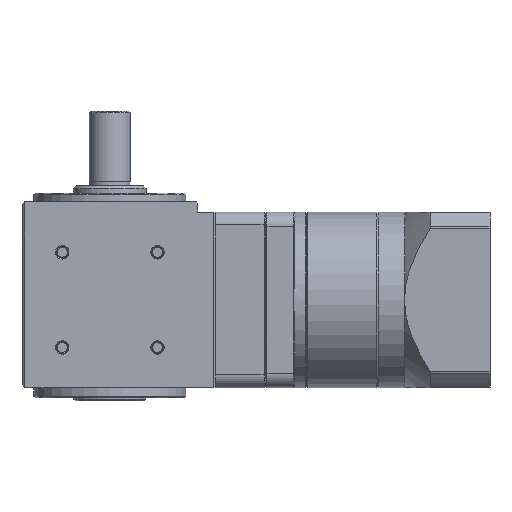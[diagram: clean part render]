
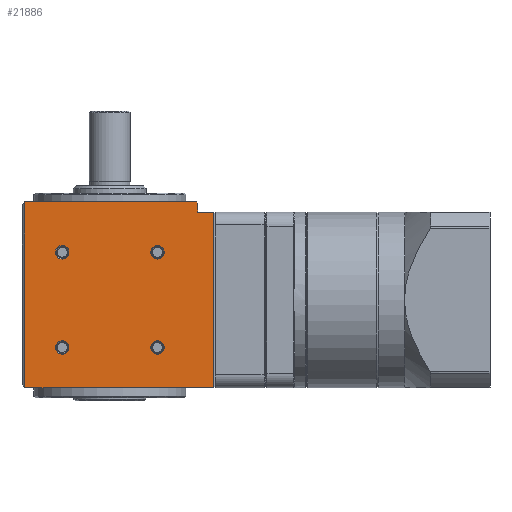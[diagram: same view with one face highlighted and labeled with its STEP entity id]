
A CAD part, left-side view. The second image highlights one B-rep face of the part: STEP entity #21886.
In plain terms, the highlighted planar face has unit normal (-1, 0, 0).
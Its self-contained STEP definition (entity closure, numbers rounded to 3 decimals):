
#290 = CARTESIAN_POINT ( 'NONE',  ( -30., 29., 63.5 ) ) ;
#306 = ORIENTED_EDGE ( 'NONE', *, *, #9460, .T. ) ;
#387 = CIRCLE ( 'NONE', #23864, 2.3 ) ;
#457 = FACE_BOUND ( 'NONE', #24627, .T. ) ;
#1071 = VECTOR ( 'NONE', #36574, 1000. ) ;
#1254 = DIRECTION ( 'NONE',  ( 1., 0., 0. ) ) ;
#1323 = DIRECTION ( 'NONE',  ( 0., 1., 0. ) ) ;
#1491 = EDGE_CURVE ( 'NONE', #14642, #35801, #40958, .T. ) ;
#1579 = LINE ( 'NONE', #41018, #1071 ) ;
#2135 = DIRECTION ( 'NONE',  ( 0., 0., -1. ) ) ;
#2151 = EDGE_CURVE ( 'NONE', #42689, #25827, #31126, .T. ) ;
#2208 = VERTEX_POINT ( 'NONE', #9987 ) ;
#2420 = CIRCLE ( 'NONE', #2509, 2.3 ) ;
#2509 = AXIS2_PLACEMENT_3D ( 'NONE', #8456, #3854, #43242 ) ;
#2681 = DIRECTION ( 'NONE',  ( 1., 0., 0. ) ) ;
#2849 = EDGE_CURVE ( 'NONE', #18149, #18149, #387, .T. ) ;
#3330 = PLANE ( 'NONE',  #6250 ) ;
#3854 = DIRECTION ( 'NONE',  ( 1., 0., 0. ) ) ;
#3862 = CARTESIAN_POINT ( 'NONE',  ( -30., -13.963, 46.263 ) ) ;
#4595 = ORIENTED_EDGE ( 'NONE', *, *, #2151, .F. ) ;
#4750 = CARTESIAN_POINT ( 'NONE',  ( -30., -30., 63. ) ) ;
#4869 = LINE ( 'NONE', #290, #16099 ) ;
#5681 = VECTOR ( 'NONE', #22219, 1000. ) ;
#5910 = DIRECTION ( 'NONE',  ( 1., 0., 0. ) ) ;
#6250 = AXIS2_PLACEMENT_3D ( 'NONE', #24912, #20474, #15996 ) ;
#6731 = CARTESIAN_POINT ( 'NONE',  ( -30., -30., 63.5 ) ) ;
#7264 = CARTESIAN_POINT ( 'NONE',  ( -30., 16.263, 13.737 ) ) ;
#8456 = CARTESIAN_POINT ( 'NONE',  ( -30., -16.263, 13.737 ) ) ;
#8462 = VERTEX_POINT ( 'NONE', #3862 ) ;
#8539 = FACE_BOUND ( 'NONE', #25757, .T. ) ;
#8834 = CIRCLE ( 'NONE', #41805, 2.3 ) ;
#9460 = EDGE_CURVE ( 'NONE', #8462, #8462, #8834, .T. ) ;
#9689 = FACE_BOUND ( 'NONE', #14073, .T. ) ;
#9746 = DIRECTION ( 'NONE',  ( 0., 0.707, 0.707 ) ) ;
#9987 = CARTESIAN_POINT ( 'NONE',  ( -30., -35.5, 0. ) ) ;
#10413 = CARTESIAN_POINT ( 'NONE',  ( -30., 16.263, 46.263 ) ) ;
#10472 = CARTESIAN_POINT ( 'NONE',  ( -30., -16.263, 46.263 ) ) ;
#11168 = EDGE_CURVE ( 'NONE', #42689, #35188, #4869, .T. ) ;
#11297 = LINE ( 'NONE', #6731, #36511 ) ;
#11995 = FACE_BOUND ( 'NONE', #13692, .T. ) ;
#12553 = ORIENTED_EDGE ( 'NONE', *, *, #34849, .T. ) ;
#12973 = DIRECTION ( 'NONE',  ( 0., 0., 1. ) ) ;
#13155 = FACE_OUTER_BOUND ( 'NONE', #13330, .T. ) ;
#13212 = EDGE_CURVE ( 'NONE', #39068, #39068, #43283, .T. ) ;
#13330 = EDGE_LOOP ( 'NONE', ( #39523, #17114, #4595, #34356, #25414, #12553, #40820 ) ) ;
#13612 = CARTESIAN_POINT ( 'NONE',  ( -30., 18.563, 46.263 ) ) ;
#13692 = EDGE_LOOP ( 'NONE', ( #33509 ) ) ;
#14073 = EDGE_LOOP ( 'NONE', ( #27572 ) ) ;
#14327 = CARTESIAN_POINT ( 'NONE',  ( -30., -29.5, 63.5 ) ) ;
#14642 = VERTEX_POINT ( 'NONE', #38873 ) ;
#15355 = CARTESIAN_POINT ( 'NONE',  ( -30., -30., 60. ) ) ;
#15407 = VECTOR ( 'NONE', #12973, 1000. ) ;
#15879 = CARTESIAN_POINT ( 'NONE',  ( -30., 29., 0. ) ) ;
#15996 = DIRECTION ( 'NONE',  ( 0., 1., 0. ) ) ;
#16099 = VECTOR ( 'NONE', #39781, 1000. ) ;
#16700 = CARTESIAN_POINT ( 'NONE',  ( -30., 29., 63.5 ) ) ;
#17114 = ORIENTED_EDGE ( 'NONE', *, *, #25513, .T. ) ;
#17530 = CARTESIAN_POINT ( 'NONE',  ( -30., -35.5, 63.5 ) ) ;
#18149 = VERTEX_POINT ( 'NONE', #13612 ) ;
#18852 = LINE ( 'NONE', #14327, #42404 ) ;
#19193 = EDGE_CURVE ( 'NONE', #35188, #2208, #1579, .T. ) ;
#20474 = DIRECTION ( 'NONE',  ( 1., 0., 0. ) ) ;
#21449 = VERTEX_POINT ( 'NONE', #4750 ) ;
#21886 = ADVANCED_FACE ( 'NONE', ( #457, #8539, #9689, #11995, #13155 ), #3330, .F. ) ;
#21979 = LINE ( 'NONE', #17530, #15407 ) ;
#22219 = DIRECTION ( 'NONE',  ( 0., -1., 0. ) ) ;
#23864 = AXIS2_PLACEMENT_3D ( 'NONE', #10413, #1254, #40711 ) ;
#24627 = EDGE_LOOP ( 'NONE', ( #28750 ) ) ;
#24912 = CARTESIAN_POINT ( 'NONE',  ( -30., -30., 63.5 ) ) ;
#25414 = ORIENTED_EDGE ( 'NONE', *, *, #19193, .T. ) ;
#25513 = EDGE_CURVE ( 'NONE', #21449, #25827, #18852, .T. ) ;
#25757 = EDGE_LOOP ( 'NONE', ( #306 ) ) ;
#25827 = VERTEX_POINT ( 'NONE', #37125 ) ;
#26660 = CARTESIAN_POINT ( 'NONE',  ( -30., -30., 63.5 ) ) ;
#27572 = ORIENTED_EDGE ( 'NONE', *, *, #40324, .T. ) ;
#28750 = ORIENTED_EDGE ( 'NONE', *, *, #2849, .T. ) ;
#29353 = AXIS2_PLACEMENT_3D ( 'NONE', #7264, #2681, #42090 ) ;
#31126 = LINE ( 'NONE', #26660, #5681 ) ;
#32063 = DIRECTION ( 'NONE',  ( 0., 1., 0. ) ) ;
#33509 = ORIENTED_EDGE ( 'NONE', *, *, #13212, .T. ) ;
#34356 = ORIENTED_EDGE ( 'NONE', *, *, #11168, .T. ) ;
#34613 = CARTESIAN_POINT ( 'NONE',  ( -30., 18.563, 13.737 ) ) ;
#34849 = EDGE_CURVE ( 'NONE', #2208, #14642, #21979, .T. ) ;
#35188 = VERTEX_POINT ( 'NONE', #15879 ) ;
#35801 = VERTEX_POINT ( 'NONE', #15355 ) ;
#35960 = EDGE_CURVE ( 'NONE', #21449, #35801, #11297, .T. ) ;
#36511 = VECTOR ( 'NONE', #2135, 1000. ) ;
#36517 = CARTESIAN_POINT ( 'NONE',  ( -30., -36., 60. ) ) ;
#36574 = DIRECTION ( 'NONE',  ( 0., -1., 0. ) ) ;
#37125 = CARTESIAN_POINT ( 'NONE',  ( -30., -29.5, 63.5 ) ) ;
#38181 = CARTESIAN_POINT ( 'NONE',  ( -30., -13.963, 13.737 ) ) ;
#38873 = CARTESIAN_POINT ( 'NONE',  ( -30., -35.5, 60. ) ) ;
#39068 = VERTEX_POINT ( 'NONE', #34613 ) ;
#39523 = ORIENTED_EDGE ( 'NONE', *, *, #35960, .F. ) ;
#39781 = DIRECTION ( 'NONE',  ( 0., 0., -1. ) ) ;
#40324 = EDGE_CURVE ( 'NONE', #42626, #42626, #2420, .T. ) ;
#40711 = DIRECTION ( 'NONE',  ( 0., 1., 0. ) ) ;
#40820 = ORIENTED_EDGE ( 'NONE', *, *, #1491, .T. ) ;
#40958 = LINE ( 'NONE', #36517, #41181 ) ;
#41018 = CARTESIAN_POINT ( 'NONE',  ( -30., -30., 0. ) ) ;
#41181 = VECTOR ( 'NONE', #32063, 1000. ) ;
#41805 = AXIS2_PLACEMENT_3D ( 'NONE', #10472, #5910, #1323 ) ;
#42090 = DIRECTION ( 'NONE',  ( 0., 1., 0. ) ) ;
#42404 = VECTOR ( 'NONE', #9746, 1000. ) ;
#42626 = VERTEX_POINT ( 'NONE', #38181 ) ;
#42689 = VERTEX_POINT ( 'NONE', #16700 ) ;
#43242 = DIRECTION ( 'NONE',  ( 0., 1., 0. ) ) ;
#43283 = CIRCLE ( 'NONE', #29353, 2.3 ) ;
